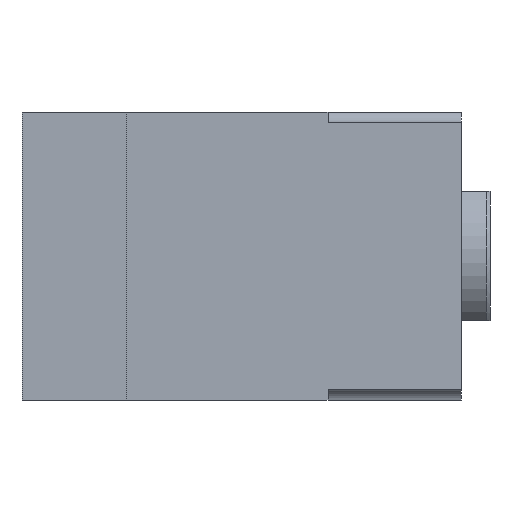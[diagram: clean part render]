
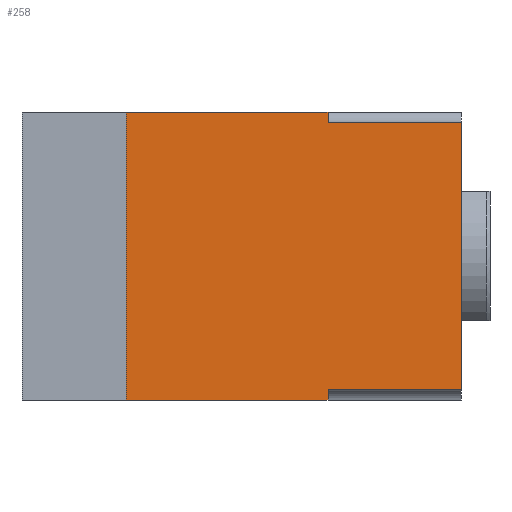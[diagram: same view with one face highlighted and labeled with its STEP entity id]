
A CAD part, front view. The second image highlights one B-rep face of the part: STEP entity #258.
In plain terms, the highlighted planar face has unit normal (0, -1, 0).
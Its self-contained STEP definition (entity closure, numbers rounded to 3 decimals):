
#258 = ADVANCED_FACE( '', ( #603 ), #604, .T. );
#603 = FACE_OUTER_BOUND( '', #1044, .T. );
#604 = PLANE( '', #1045 );
#1044 = EDGE_LOOP( '', ( #1750, #1751, #1752, #1753, #1754, #1755, #1756, #1757 ) );
#1045 = AXIS2_PLACEMENT_3D( '', #1758, #1759, #1760 );
#1750 = ORIENTED_EDGE( '', *, *, #2506, .T. );
#1751 = ORIENTED_EDGE( '', *, *, #2507, .T. );
#1752 = ORIENTED_EDGE( '', *, *, #2356, .F. );
#1753 = ORIENTED_EDGE( '', *, *, #2406, .T. );
#1754 = ORIENTED_EDGE( '', *, *, #2508, .T. );
#1755 = ORIENTED_EDGE( '', *, *, #2509, .T. );
#1756 = ORIENTED_EDGE( '', *, *, #2479, .T. );
#1757 = ORIENTED_EDGE( '', *, *, #2444, .F. );
#1758 = CARTESIAN_POINT( '', ( 61., -17., 20. ) );
#1759 = DIRECTION( '', ( 0., -1., 0. ) );
#1760 = DIRECTION( '', ( 0., 0., -1. ) );
#2356 = EDGE_CURVE( '', #2794, #2796, #2797, .T. );
#2406 = EDGE_CURVE( '', #2794, #2873, #2875, .T. );
#2444 = EDGE_CURVE( '', #2932, #2934, #2935, .T. );
#2479 = EDGE_CURVE( '', #2986, #2934, #2987, .T. );
#2506 = EDGE_CURVE( '', #2932, #3024, #3025, .T. );
#2507 = EDGE_CURVE( '', #3024, #2796, #3026, .T. );
#2508 = EDGE_CURVE( '', #2873, #3027, #3028, .T. );
#2509 = EDGE_CURVE( '', #3027, #2986, #3029, .T. );
#2794 = VERTEX_POINT( '', #3389 );
#2796 = VERTEX_POINT( '', #3392 );
#2797 = LINE( '', #3393, #3394 );
#2873 = VERTEX_POINT( '', #3489 );
#2875 = LINE( '', #3492, #3493 );
#2932 = VERTEX_POINT( '', #3573 );
#2934 = VERTEX_POINT( '', #3576 );
#2935 = LINE( '', #3577, #3578 );
#2986 = VERTEX_POINT( '', #3648 );
#2987 = LINE( '', #3649, #3650 );
#3024 = VERTEX_POINT( '', #3703 );
#3025 = LINE( '', #3704, #3705 );
#3026 = LINE( '', #3706, #3707 );
#3027 = VERTEX_POINT( '', #3708 );
#3028 = LINE( '', #3709, #3710 );
#3029 = LINE( '', #3711, #3712 );
#3389 = CARTESIAN_POINT( '', ( 61., -17., 18.5 ) );
#3392 = CARTESIAN_POINT( '', ( 61., -17., -18.5 ) );
#3393 = CARTESIAN_POINT( '', ( 61., -17., 20. ) );
#3394 = VECTOR( '', #4126, 1000. );
#3489 = CARTESIAN_POINT( '', ( 42.5, -17., 18.5 ) );
#3492 = CARTESIAN_POINT( '', ( 61., -17., 18.5 ) );
#3493 = VECTOR( '', #4198, 1000. );
#3573 = CARTESIAN_POINT( '', ( 42.5, -17., -20. ) );
#3576 = CARTESIAN_POINT( '', ( 14.5, -17., -20. ) );
#3577 = CARTESIAN_POINT( '', ( 61., -17., -20. ) );
#3578 = VECTOR( '', #4235, 1000. );
#3648 = CARTESIAN_POINT( '', ( 14.5, -17., 20. ) );
#3649 = CARTESIAN_POINT( '', ( 14.5, -17., 20. ) );
#3650 = VECTOR( '', #4270, 1000. );
#3703 = CARTESIAN_POINT( '', ( 42.5, -17., -18.5 ) );
#3704 = CARTESIAN_POINT( '', ( 42.5, -17., 20. ) );
#3705 = VECTOR( '', #4299, 1000. );
#3706 = CARTESIAN_POINT( '', ( 61., -17., -18.5 ) );
#3707 = VECTOR( '', #4300, 1000. );
#3708 = CARTESIAN_POINT( '', ( 42.5, -17., 20. ) );
#3709 = CARTESIAN_POINT( '', ( 42.5, -17., 20. ) );
#3710 = VECTOR( '', #4301, 1000. );
#3711 = CARTESIAN_POINT( '', ( 61., -17., 20. ) );
#3712 = VECTOR( '', #4302, 1000. );
#4126 = DIRECTION( '', ( 0., 0., -1. ) );
#4198 = DIRECTION( '', ( -1., 0., 0. ) );
#4235 = DIRECTION( '', ( -1., 0., 0. ) );
#4270 = DIRECTION( '', ( 0., 0., -1. ) );
#4299 = DIRECTION( '', ( 0., 0., 1. ) );
#4300 = DIRECTION( '', ( 1., 0., 0. ) );
#4301 = DIRECTION( '', ( 0., 0., 1. ) );
#4302 = DIRECTION( '', ( -1., 0., 0. ) );
